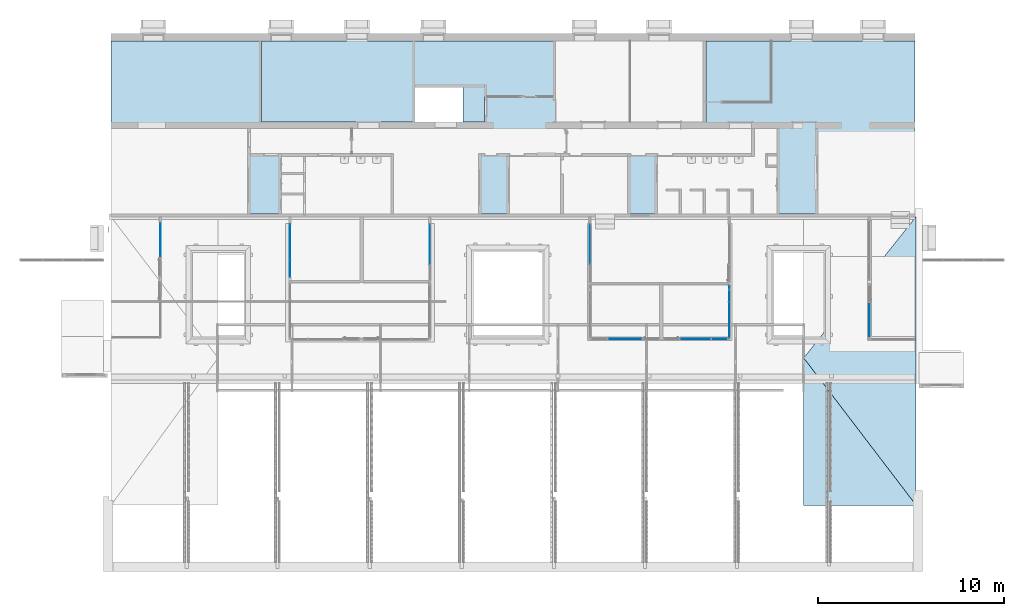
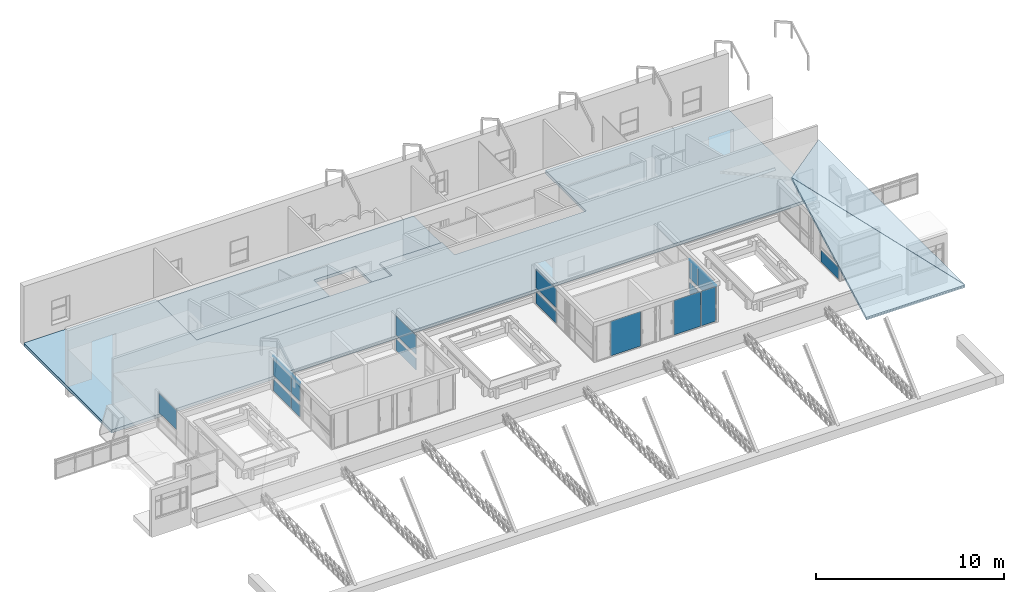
# One storey, part 104 of 153: 19 plates, 4 slabs, 9 elements without a shape of their own.
"""IFC4 building model written with IfcOpenShell, lengths in metres."""

from ifc_helpers import new_model, entity, si_unit, converted_unit, derived_unit, direction, frame, origin, place, context, subcontext, project, spatial, indexed_curve, outline, extrude, source, transform, mapped, material, constituent, constituent_set, type_object, type_shapes, element, aggregate, save


model = new_model("IFC4")

# Units and contexts
model_context = context("Model", 3, precision=1e-05, world=origin(), true_north=direction((6.123031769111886e-17, 1.0)))
body_context = subcontext(model_context, "Body", "Model", "MODEL_VIEW")
ifc_project = project(units=[si_unit("LENGTHUNIT", "METRE"), si_unit("AREAUNIT", "SQUARE_METRE"), si_unit("VOLUMEUNIT", "CUBIC_METRE"), converted_unit("PLANEANGLEUNIT", "DEGREE", entity("IfcRatioMeasure", 0.017453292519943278), si_unit("PLANEANGLEUNIT", "RADIAN"), dimensions=[0, 0, 0, 0, 0, 0, 0]), si_unit("MASSUNIT", "GRAM", prefix="KILO"), derived_unit("MASSDENSITYUNIT", [(si_unit("MASSUNIT", "GRAM", prefix="KILO"), 1), (si_unit("LENGTHUNIT", "METRE"), -3)]), derived_unit("MOMENTOFINERTIAUNIT", [(si_unit("LENGTHUNIT", "METRE"), 4)]), si_unit("TIMEUNIT", "SECOND"), si_unit("FREQUENCYUNIT", "HERTZ"), si_unit("THERMODYNAMICTEMPERATUREUNIT", "DEGREE_CELSIUS"), derived_unit("THERMALTRANSMITTANCEUNIT", [(si_unit("MASSUNIT", "GRAM", prefix="KILO"), 1), (si_unit("THERMODYNAMICTEMPERATUREUNIT", "KELVIN"), -1), (si_unit("TIMEUNIT", "SECOND"), -3)]), derived_unit("VOLUMETRICFLOWRATEUNIT", [(si_unit("LENGTHUNIT", "METRE"), 3), (si_unit("TIMEUNIT", "SECOND"), -1)]), derived_unit("MASSFLOWRATEUNIT", [(si_unit("MASSUNIT", "GRAM", prefix="KILO"), 1), (si_unit("TIMEUNIT", "SECOND"), -1)]), derived_unit("ROTATIONALFREQUENCYUNIT", [(si_unit("TIMEUNIT", "SECOND"), -1)]), si_unit("ELECTRICCURRENTUNIT", "AMPERE"), si_unit("ELECTRICVOLTAGEUNIT", "VOLT"), si_unit("POWERUNIT", "WATT"), si_unit("FORCEUNIT", "NEWTON", prefix="KILO"), si_unit("ILLUMINANCEUNIT", "LUX"), si_unit("LUMINOUSFLUXUNIT", "LUMEN"), si_unit("LUMINOUSINTENSITYUNIT", "CANDELA"), derived_unit("USERDEFINED", [(si_unit("MASSUNIT", "GRAM", prefix="KILO"), -1), (si_unit("LENGTHUNIT", "METRE"), -2), (si_unit("TIMEUNIT", "SECOND"), 3), (si_unit("LUMINOUSFLUXUNIT", "LUMEN"), 1)]), derived_unit("SOUNDPOWERUNIT", [(si_unit("MASSUNIT", "GRAM", prefix="KILO"), 1), (si_unit("LENGTHUNIT", "METRE"), 2), (si_unit("TIMEUNIT", "SECOND"), -3)]), derived_unit("SOUNDPRESSUREUNIT", [(si_unit("MASSUNIT", "GRAM", prefix="KILO"), 1), (si_unit("LENGTHUNIT", "METRE"), -1), (si_unit("TIMEUNIT", "SECOND"), -2)]), derived_unit("LINEARVELOCITYUNIT", [(si_unit("LENGTHUNIT", "METRE"), 1), (si_unit("TIMEUNIT", "SECOND"), -1)]), si_unit("PRESSUREUNIT", "PASCAL"), derived_unit("USERDEFINED", [(si_unit("LENGTHUNIT", "METRE"), -2), (si_unit("MASSUNIT", "GRAM", prefix="KILO"), 1), (si_unit("TIMEUNIT", "SECOND"), -2)]), derived_unit("LINEARFORCEUNIT", [(si_unit("MASSUNIT", "GRAM", prefix="KILO"), 1), (si_unit("LENGTHUNIT", "METRE"), 1), (si_unit("TIMEUNIT", "SECOND"), -2), (si_unit("LENGTHUNIT", "METRE"), -1)]), derived_unit("PLANARFORCEUNIT", [(si_unit("MASSUNIT", "GRAM", prefix="KILO"), 1), (si_unit("LENGTHUNIT", "METRE"), 1), (si_unit("TIMEUNIT", "SECOND"), -2), (si_unit("LENGTHUNIT", "METRE"), -2)])], contexts=[model_context])

# Site, building, storey
site_placement = place(None, origin())
site = spatial("IfcSite", under=ifc_project, at=site_placement, Name="Superficie", CompositionType="ELEMENT")
building_placement = place(site_placement, origin())
building = spatial("IfcBuilding", under=site, at=building_placement, CompositionType="ELEMENT")
storey_placement = place(building_placement, frame((0.0, 0.0, 3.5999999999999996)))
storey = spatial("IfcBuildingStorey", under=building, at=storey_placement, Name="Nivel 1", CompositionType="ELEMENT", Elevation=3.5999999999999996)

# Curtain wall, plate
curtain_wall_type = type_object("IfcCurtainWallType", Name="Muro cortina:Muro cortina - simple", PredefinedType="NOTDEFINED")
curtain_wall_1_placement = place(storey_placement, frame((0.0, 0.0, -3.5999999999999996)))
curtain_wall_1 = element("IfcCurtainWall", 1, at=curtain_wall_1_placement, inside=storey, type_object=curtain_wall_type, Name="Muro cortina:Muro cortina - simple", ObjectType="Muro cortina:Muro cortina - simple", PredefinedType="NOTDEFINED")
ifc_material_1 = material(Name="Cristal", Category="Vidrio")
plate_type_1 = type_object("IfcPlateType", Name="Panel de sistema:Acristalado", PredefinedType="CURTAIN_PANEL", material=ifc_material_1)
shared_shape_1 = source(origin(), body_context, "Body", "SweptSolid", [
    extrude(outline(indexed_curve([(-0.01, -0.9474999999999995), (0.01, -0.9474999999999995), (0.01, 0.9474999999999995), (-0.01, 0.9474999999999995), (-0.01, -0.9474999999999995)], self_intersect=False)), frame((0.0, 0.0, 0.0), z_axis=(0.0, 0.0, 1.0), x_axis=(0.0, 1.0, 0.0)), (0.0, 0.0, 1.0), 0.7600000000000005),
])
type_shapes(plate_type_1, [shared_shape_1])
plate_1_placement = place(curtain_wall_1_placement, frame((18.12679901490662, 0.06273284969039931, 3.6449999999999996), z_axis=(0.0, 0.0, 1.0), x_axis=(0.0, 1.0, 0.0)))
plate_1 = element("IfcPlate", 2, at=plate_1_placement, type_object=plate_type_1, material=ifc_material_1, Name="Panel de sistema:Acristalado", ObjectType="Panel de sistema:Acristalado", PredefinedType="CURTAIN_PANEL", context=body_context, shape_type="MappedRepresentation", body=[
    mapped(shared_shape_1, transform((0.0, 0.0, 0.0), scale=1.0)),
])
aggregate(curtain_wall_1, [plate_1])

# Curtain wall, plates
curtain_wall_2_placement = place(storey_placement, frame((0.0, 0.0, -3.5999999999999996)))
curtain_wall_2 = element("IfcCurtainWall", 3, at=curtain_wall_2_placement, inside=storey, type_object=curtain_wall_type, Name="Muro cortina:Muro cortina - simple", ObjectType="Muro cortina:Muro cortina - simple", PredefinedType="NOTDEFINED")
plate_2_placement = place(curtain_wall_2_placement, frame((10.596799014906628, 0.07458312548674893, 3.6449999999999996), z_axis=(0.0, 0.0, 1.0), x_axis=(0.0, 1.0, 0.0)))
plate_2 = element("IfcPlate", 4, at=plate_2_placement, type_object=plate_type_1, material=ifc_material_1, Name="Panel de sistema:Acristalado", ObjectType="Panel de sistema:Acristalado", PredefinedType="CURTAIN_PANEL", context=body_context, shape_type="MappedRepresentation", body=[
    mapped(shared_shape_1, transform((0.0, 0.0, 0.0), scale=1.0)),
])
plate_type_2 = type_object("IfcPlateType", Name="Panel de sistema:Acristalado", PredefinedType="CURTAIN_PANEL", material=ifc_material_1)
shared_shape_2 = source(origin(), body_context, "Body", "SweptSolid", [
    extrude(outline(indexed_curve([(-0.01, -0.9475000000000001), (0.01, -0.9475000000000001), (0.01, 0.9475000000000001), (-0.01, 0.9475000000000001), (-0.01, -0.9475000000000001)], self_intersect=False)), frame((0.0, 0.0, 0.0), z_axis=(0.0, 0.0, 1.0), x_axis=(0.0, 1.0, 0.0)), (0.0, 0.0, 1.0), 1.2249999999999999),
])
type_shapes(plate_type_2, [shared_shape_2])
plate_3_placement = place(curtain_wall_2_placement, frame((10.596799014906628, 0.07458312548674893, 4.654999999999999), z_axis=(0.0, 0.0, 1.0), x_axis=(0.0, 1.0, 0.0)))
plate_3 = element("IfcPlate", 5, at=plate_3_placement, type_object=plate_type_2, material=ifc_material_1, Name="Panel de sistema:Acristalado", ObjectType="Panel de sistema:Acristalado", PredefinedType="CURTAIN_PANEL", context=body_context, shape_type="MappedRepresentation", body=[
    mapped(shared_shape_2, transform((0.0, 0.0, 0.0), scale=1.0)),
])
plate_type_3 = type_object("IfcPlateType", Name="Panel de sistema:Acristalado", PredefinedType="CURTAIN_PANEL", material=ifc_material_1)
shared_shape_3 = source(origin(), body_context, "Body", "SweptSolid", [
    extrude(outline(indexed_curve([(-0.009999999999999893, -1.5716666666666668), (0.009999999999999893, -1.5716666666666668), (0.009999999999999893, 0.3483333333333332), (0.009999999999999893, 1.2233333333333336), (-0.009999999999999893, 1.2233333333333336), (-0.009999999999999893, 0.3483333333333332), (-0.009999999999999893, -1.5716666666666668)], self_intersect=False)), frame((0.1741666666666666, -0.01, 0.009999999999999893), z_axis=(0.0, 1.0, 0.0), x_axis=(0.0, 0.0, 1.0)), (0.0, 0.0, 1.0), 0.02),
])
type_shapes(plate_type_3, [shared_shape_3])
plate_4_placement = place(curtain_wall_2_placement, frame((10.596799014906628, 0.524583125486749, 5.879999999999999), z_axis=(0.0, 0.0, 1.0), x_axis=(0.0, 1.0, 0.0)))
plate_4 = element("IfcPlate", 6, at=plate_4_placement, type_object=plate_type_3, material=ifc_material_1, Name="Panel de sistema:Acristalado", ObjectType="Panel de sistema:Acristalado", PredefinedType="CURTAIN_PANEL", context=body_context, shape_type="MappedRepresentation", body=[
    mapped(shared_shape_3, transform((0.0, 0.0, 0.0), scale=1.0)),
])

# Curtain wall, plate
curtain_wall_3_placement = place(storey_placement, frame((0.0, 0.0, -3.5999999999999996)))
curtain_wall_3 = element("IfcCurtainWall", 7, at=curtain_wall_3_placement, inside=storey, type_object=curtain_wall_type, Name="Muro cortina:Muro cortina - simple", ObjectType="Muro cortina:Muro cortina - simple", PredefinedType="NOTDEFINED")
plate_type_4 = type_object("IfcPlateType", Name="Panel de sistema:Acristalado", PredefinedType="CURTAIN_PANEL", material=ifc_material_1)
shared_shape_4 = source(origin(), body_context, "Body", "SweptSolid", [
    extrude(outline(indexed_curve([(-0.01, -0.45499999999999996), (0.01, -0.45499999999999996), (0.01, 0.45499999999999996), (-0.01, 0.45499999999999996), (-0.01, -0.45499999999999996)], self_intersect=False)), frame((0.0, 0.0, 0.0), z_axis=(0.0, 0.0, 1.0), x_axis=(0.0, 1.0, 0.0)), (0.0, 0.0, 1.0), 0.7600000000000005),
])
type_shapes(plate_type_4, [shared_shape_4])
plate_5_placement = place(curtain_wall_3_placement, frame((-13.023200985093, 2.846393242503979, 3.6449999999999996), z_axis=(0.0, 0.0, 1.0), x_axis=(0.0, 1.0, 0.0)))
plate_5 = element("IfcPlate", 8, at=plate_5_placement, type_object=plate_type_4, material=ifc_material_1, Name="Panel de sistema:Acristalado", ObjectType="Panel de sistema:Acristalado", PredefinedType="CURTAIN_PANEL", context=body_context, shape_type="MappedRepresentation", body=[
    mapped(shared_shape_4, transform((0.0, 0.0, 0.0), scale=1.0)),
])

# Curtain wall, plates
curtain_wall_4_placement = place(storey_placement, frame((0.0, 0.0, -3.5999999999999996)))
curtain_wall_4 = element("IfcCurtainWall", 9, at=curtain_wall_4_placement, inside=storey, type_object=curtain_wall_type, Name="Muro cortina:Muro cortina - simple", ObjectType="Muro cortina:Muro cortina - simple", PredefinedType="NOTDEFINED")
plate_type_5 = type_object("IfcPlateType", Name="Panel de sistema:Acristalado", PredefinedType="CURTAIN_PANEL", material=ifc_material_1)
shared_shape_5 = source(origin(), body_context, "Body", "SweptSolid", [
    extrude(outline(indexed_curve([(-0.01, -1.0780801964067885), (0.01, -1.0780801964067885), (0.01, 1.0780801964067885), (-0.01, 1.0780801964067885), (-0.01, -1.0780801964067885)], self_intersect=False)), frame((0.0, 0.0, 0.0), z_axis=(0.0, 0.0, 1.0), x_axis=(0.0, 1.0, 0.0)), (0.0, 0.0, 1.0), 0.7600000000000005),
])
type_shapes(plate_type_5, [shared_shape_5])
plate_6_placement = place(curtain_wall_4_placement, frame((-5.5132009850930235, 4.1483130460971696, 3.6449999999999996), z_axis=(0.0, 0.0, 1.0), x_axis=(0.0, 1.0, 0.0)))
plate_6 = element("IfcPlate", 10, at=plate_6_placement, type_object=plate_type_5, material=ifc_material_1, Name="Panel de sistema:Acristalado", ObjectType="Panel de sistema:Acristalado", PredefinedType="CURTAIN_PANEL", context=body_context, shape_type="MappedRepresentation", body=[
    mapped(shared_shape_5, transform((0.0, 0.0, 0.0), scale=1.0)),
])
plate_type_6 = type_object("IfcPlateType", Name="Panel de sistema:Acristalado", PredefinedType="CURTAIN_PANEL", material=ifc_material_1)
shared_shape_6 = source(origin(), body_context, "Body", "SweptSolid", [
    extrude(outline(indexed_curve([(-0.01, -1.078080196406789), (0.01, -1.078080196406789), (0.01, 1.078080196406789), (-0.01, 1.078080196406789), (-0.01, -1.078080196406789)], self_intersect=False)), frame((0.0, 0.0, 0.0), z_axis=(0.0, 0.0, 1.0), x_axis=(0.0, 1.0, 0.0)), (0.0, 0.0, 1.0), 1.2449999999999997),
])
type_shapes(plate_type_6, [shared_shape_6])
plate_7_placement = place(curtain_wall_4_placement, frame((-5.5132009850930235, 4.14831304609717, 4.654999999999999), z_axis=(0.0, 0.0, 1.0), x_axis=(0.0, 1.0, 0.0)))
plate_7 = element("IfcPlate", 11, at=plate_7_placement, type_object=plate_type_6, material=ifc_material_1, Name="Panel de sistema:Acristalado", ObjectType="Panel de sistema:Acristalado", PredefinedType="CURTAIN_PANEL", context=body_context, shape_type="MappedRepresentation", body=[
    mapped(shared_shape_6, transform((0.0, 0.0, 0.0), scale=1.0)),
])
aggregate(curtain_wall_4, [plate_6, plate_7])

# Plate
plate_type_7 = type_object("IfcPlateType", Name="Panel de sistema:Acristalado", PredefinedType="CURTAIN_PANEL", material=ifc_material_1)
shared_shape_7 = source(origin(), body_context, "Body", "SweptSolid", [
    extrude(outline(indexed_curve([(-0.01, -0.42500000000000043), (0.01, -0.42500000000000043), (0.01, 0.42500000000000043), (-0.01, 0.42500000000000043), (-0.01, -0.42500000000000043)], self_intersect=False)), frame((0.0, 0.0, 0.0), z_axis=(0.0, 0.0, 1.0), x_axis=(0.0, 1.0, 0.0)), (0.0, 0.0, 1.0), 0.7600000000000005),
])
type_shapes(plate_type_7, [shared_shape_7])
plate_8_placement = place(curtain_wall_2_placement, frame((10.596799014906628, 1.4970831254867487, 3.6449999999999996), z_axis=(0.0, 0.0, 1.0), x_axis=(0.0, 1.0, 0.0)))
plate_8 = element("IfcPlate", 12, at=plate_8_placement, type_object=plate_type_7, material=ifc_material_1, Name="Panel de sistema:Acristalado", ObjectType="Panel de sistema:Acristalado", PredefinedType="CURTAIN_PANEL", context=body_context, shape_type="MappedRepresentation", body=[
    mapped(shared_shape_7, transform((0.0, 0.0, 0.0), scale=1.0)),
])

plate_type_8 = type_object("IfcPlateType", Name="Panel de sistema:Acristalado", PredefinedType="CURTAIN_PANEL", material=ifc_material_1)
shared_shape_8 = source(origin(), body_context, "Body", "SweptSolid", [
    extrude(outline(indexed_curve([(-0.01, -0.4249999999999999), (0.01, -0.4249999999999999), (0.01, 0.4249999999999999), (-0.01, 0.4249999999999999), (-0.01, -0.4249999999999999)], self_intersect=False)), frame((0.0, 0.0, 0.0), z_axis=(0.0, 0.0, 1.0), x_axis=(0.0, 1.0, 0.0)), (0.0, 0.0, 1.0), 1.2249999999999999),
])
type_shapes(plate_type_8, [shared_shape_8])
plate_9_placement = place(curtain_wall_2_placement, frame((10.596799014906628, 1.4970831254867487, 4.654999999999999), z_axis=(0.0, 0.0, 1.0), x_axis=(0.0, 1.0, 0.0)))
plate_9 = element("IfcPlate", 13, at=plate_9_placement, type_object=plate_type_8, material=ifc_material_1, Name="Panel de sistema:Acristalado", ObjectType="Panel de sistema:Acristalado", PredefinedType="CURTAIN_PANEL", context=body_context, shape_type="MappedRepresentation", body=[
    mapped(shared_shape_8, transform((0.0, 0.0, 0.0), scale=1.0)),
])

aggregate(curtain_wall_2, [plate_2, plate_8, plate_3, plate_9, plate_4])

# Curtain wall, plates
curtain_wall_5_placement = place(storey_placement, frame((0.0, 0.0, -3.5999999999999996)))
curtain_wall_5 = element("IfcCurtainWall", 14, at=curtain_wall_5_placement, inside=storey, type_object=curtain_wall_type, Name="Muro cortina:Muro cortina - simple", ObjectType="Muro cortina:Muro cortina - simple", PredefinedType="NOTDEFINED")
plate_type_9 = type_object("IfcPlateType", Name="Panel de sistema:Acristalado", PredefinedType="CURTAIN_PANEL", material=ifc_material_1)
shared_shape_9 = source(origin(), body_context, "Body", "SweptSolid", [
    extrude(outline(indexed_curve([(-0.01, -1.0721550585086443), (0.01, -1.0721550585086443), (0.01, 1.0721550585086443), (-0.01, 1.0721550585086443), (-0.01, -1.0721550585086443)], self_intersect=False)), frame((0.0, 0.0, 0.0), z_axis=(0.0, 0.0, 1.0), x_axis=(0.0, 1.0, 0.0)), (0.0, 0.0, 1.0), 0.7600000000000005),
])
type_shapes(plate_type_9, [shared_shape_9])
plate_10_placement = place(curtain_wall_5_placement, frame((3.09179901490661, 4.154238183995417, 3.6449999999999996), z_axis=(0.0, 0.0, 1.0), x_axis=(0.0, 1.0, 0.0)))
plate_10 = element("IfcPlate", 15, at=plate_10_placement, type_object=plate_type_9, material=ifc_material_1, Name="Panel de sistema:Acristalado", ObjectType="Panel de sistema:Acristalado", PredefinedType="CURTAIN_PANEL", context=body_context, shape_type="MappedRepresentation", body=[
    mapped(shared_shape_9, transform((0.0, 0.0, 0.0), scale=1.0)),
])
plate_type_10 = type_object("IfcPlateType", Name="Panel de sistema:Acristalado", PredefinedType="CURTAIN_PANEL", material=ifc_material_1)
shared_shape_10 = source(origin(), body_context, "Body", "SweptSolid", [
    extrude(outline(indexed_curve([(-0.01, -1.0721550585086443), (0.01, -1.0721550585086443), (0.01, 1.0721550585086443), (-0.01, 1.0721550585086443), (-0.01, -1.0721550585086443)], self_intersect=False)), frame((0.0, 0.0, 0.0), z_axis=(0.0, 0.0, 1.0), x_axis=(0.0, 1.0, 0.0)), (0.0, 0.0, 1.0), 1.2449999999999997),
])
type_shapes(plate_type_10, [shared_shape_10])
plate_11_placement = place(curtain_wall_5_placement, frame((3.09179901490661, 4.154238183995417, 4.654999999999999), z_axis=(0.0, 0.0, 1.0), x_axis=(0.0, 1.0, 0.0)))
plate_11 = element("IfcPlate", 16, at=plate_11_placement, type_object=plate_type_10, material=ifc_material_1, Name="Panel de sistema:Acristalado", ObjectType="Panel de sistema:Acristalado", PredefinedType="CURTAIN_PANEL", context=body_context, shape_type="MappedRepresentation", body=[
    mapped(shared_shape_10, transform((0.0, 0.0, 0.0), scale=1.0)),
])
aggregate(curtain_wall_5, [plate_10, plate_11])

curtain_wall_6_placement = place(storey_placement, frame((0.0, 0.0, -3.5999999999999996)))
curtain_wall_6 = element("IfcCurtainWall", 17, at=curtain_wall_6_placement, inside=storey, type_object=curtain_wall_type, Name="Muro cortina:Muro cortina - simple", ObjectType="Muro cortina:Muro cortina - simple", PredefinedType="NOTDEFINED")
plate_type_11 = type_object("IfcPlateType", Name="Panel de sistema:Acristalado", PredefinedType="CURTAIN_PANEL", material=ifc_material_1)
shared_shape_11 = source(origin(), body_context, "Body", "SweptSolid", [
    extrude(outline(indexed_curve([(-0.01, -0.4374999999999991), (0.01, -0.4374999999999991), (0.01, 0.4374999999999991), (-0.01, 0.4374999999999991), (-0.01, -0.4374999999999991)], self_intersect=False)), frame((0.0, 0.0, 0.0), z_axis=(0.0, 0.0, 1.0), x_axis=(0.0, 1.0, 0.0)), (0.0, 0.0, 1.0), 2.250000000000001),
])
type_shapes(plate_type_11, [shared_shape_11])
plate_12_placement = place(curtain_wall_6_placement, frame((10.07929901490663, -0.9517564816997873, 3.6499999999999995), z_axis=(0.0, 0.0, 1.0), x_axis=(-1.0, 0.0, 0.0)))
plate_12 = element("IfcPlate", 18, at=plate_12_placement, type_object=plate_type_11, material=ifc_material_1, Name="Panel de sistema:Acristalado", ObjectType="Panel de sistema:Acristalado", PredefinedType="CURTAIN_PANEL", context=body_context, shape_type="MappedRepresentation", body=[
    mapped(shared_shape_11, transform((0.0, 0.0, 0.0), scale=1.0)),
])
plate_type_12 = type_object("IfcPlateType", Name="Panel de sistema:Acristalado", PredefinedType="CURTAIN_PANEL", material=ifc_material_1)
shared_shape_12 = source(origin(), body_context, "Body", "SweptSolid", [
    extrude(outline(indexed_curve([(-0.01, -0.8124999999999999), (0.01, -0.8124999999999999), (0.01, 0.8124999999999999), (-0.01, 0.8124999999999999), (-0.01, -0.8124999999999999)], self_intersect=False)), frame((0.0, 0.0, 0.0), z_axis=(0.0, 0.0, 1.0), x_axis=(0.0, 1.0, 0.0)), (0.0, 0.0, 1.0), 2.250000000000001),
])
type_shapes(plate_type_12, [shared_shape_12])
plate_13_placement = place(curtain_wall_6_placement, frame((8.77929901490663, -0.9517564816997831, 3.6499999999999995), z_axis=(0.0, 0.0, 1.0), x_axis=(-1.0, 0.0, 0.0)))
plate_13 = element("IfcPlate", 19, at=plate_13_placement, type_object=plate_type_12, material=ifc_material_1, Name="Panel de sistema:Acristalado", ObjectType="Panel de sistema:Acristalado", PredefinedType="CURTAIN_PANEL", context=body_context, shape_type="MappedRepresentation", body=[
    mapped(shared_shape_12, transform((0.0, 0.0, 0.0), scale=1.0)),
])
aggregate(curtain_wall_6, [plate_12, plate_13])

# Curtain wall, plate
curtain_wall_7_placement = place(storey_placement, frame((0.0, 0.0, -3.5999999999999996)))
curtain_wall_7 = element("IfcCurtainWall", 20, at=curtain_wall_7_placement, inside=storey, type_object=curtain_wall_type, Name="Muro cortina:Muro cortina - simple", ObjectType="Muro cortina:Muro cortina - simple", PredefinedType="NOTDEFINED")
plate_type_13 = type_object("IfcPlateType", Name="Panel de sistema:Acristalado", PredefinedType="CURTAIN_PANEL", material=ifc_material_1)
shared_shape_13 = source(origin(), body_context, "Body", "SweptSolid", [
    extrude(outline(indexed_curve([(-0.01, -0.9199999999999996), (0.01, -0.9199999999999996), (0.01, 0.9199999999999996), (-0.01, 0.9199999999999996), (-0.01, -0.9199999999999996)], self_intersect=False)), frame((0.0, 0.0, 0.0), z_axis=(0.0, 0.0, 1.0), x_axis=(0.0, 1.0, 0.0)), (0.0, 0.0, 1.0), 2.250000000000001),
])
type_shapes(plate_type_13, [shared_shape_13])
plate_14_placement = place(curtain_wall_7_placement, frame((4.996799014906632, -0.9517564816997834, 3.6499999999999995)))
plate_14 = element("IfcPlate", 21, at=plate_14_placement, type_object=plate_type_13, material=ifc_material_1, Name="Panel de sistema:Acristalado", ObjectType="Panel de sistema:Acristalado", PredefinedType="CURTAIN_PANEL", context=body_context, shape_type="MappedRepresentation", body=[
    mapped(shared_shape_13, transform((0.0, 0.0, 0.0), scale=1.0)),
])
aggregate(curtain_wall_7, [plate_14])

# Plate
plate_type_14 = type_object("IfcPlateType", Name="Panel de sistema:Acristalado", PredefinedType="CURTAIN_PANEL", material=ifc_material_1)
shared_shape_14 = source(origin(), body_context, "Body", "SweptSolid", [
    extrude(outline(indexed_curve([(-0.01, -0.9400000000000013), (0.01, -0.9400000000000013), (0.01, 0.9400000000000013), (-0.01, 0.9400000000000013), (-0.01, -0.9400000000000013)], self_intersect=False)), frame((0.0, 0.0, 0.0), z_axis=(0.0, 0.0, 1.0), x_axis=(0.0, 1.0, 0.0)), (0.0, 0.0, 1.0), 0.7600000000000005),
])
type_shapes(plate_type_14, [shared_shape_14])
plate_15_placement = place(curtain_wall_3_placement, frame((-13.023200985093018, 4.29139324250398, 3.6449999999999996), z_axis=(0.0, 0.0, 1.0), x_axis=(0.0, 1.0, 0.0)))
plate_15 = element("IfcPlate", 22, at=plate_15_placement, type_object=plate_type_14, material=ifc_material_1, Name="Panel de sistema:Acristalado", ObjectType="Panel de sistema:Acristalado", PredefinedType="CURTAIN_PANEL", context=body_context, shape_type="MappedRepresentation", body=[
    mapped(shared_shape_14, transform((0.0, 0.0, 0.0), scale=1.0)),
])

plate_type_15 = type_object("IfcPlateType", Name="Panel de sistema:Acristalado", PredefinedType="CURTAIN_PANEL", material=ifc_material_1)
shared_shape_15 = source(origin(), body_context, "Body", "SweptSolid", [
    extrude(outline(indexed_curve([(-0.01, -0.4550000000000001), (0.01, -0.4550000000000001), (0.01, 0.4550000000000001), (-0.01, 0.4550000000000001), (-0.01, -0.4550000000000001)], self_intersect=False)), frame((0.0, 0.0, 0.0), z_axis=(0.0, 0.0, 1.0), x_axis=(0.0, 1.0, 0.0)), (0.0, 0.0, 1.0), 1.2249999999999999),
])
type_shapes(plate_type_15, [shared_shape_15])
plate_16_placement = place(curtain_wall_3_placement, frame((-13.023200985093, 2.846393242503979, 4.654999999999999), z_axis=(0.0, 0.0, 1.0), x_axis=(0.0, 1.0, 0.0)))
plate_16 = element("IfcPlate", 23, at=plate_16_placement, type_object=plate_type_15, material=ifc_material_1, Name="Panel de sistema:Acristalado", ObjectType="Panel de sistema:Acristalado", PredefinedType="CURTAIN_PANEL", context=body_context, shape_type="MappedRepresentation", body=[
    mapped(shared_shape_15, transform((0.0, 0.0, 0.0), scale=1.0)),
])

plate_type_16 = type_object("IfcPlateType", Name="Panel de sistema:Acristalado", PredefinedType="CURTAIN_PANEL", material=ifc_material_1)
shared_shape_16 = source(origin(), body_context, "Body", "SweptSolid", [
    extrude(outline(indexed_curve([(-0.01, -0.9400000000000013), (0.01, -0.9400000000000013), (0.01, 0.9400000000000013), (-0.01, 0.9400000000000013), (-0.01, -0.9400000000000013)], self_intersect=False)), frame((0.0, 0.0, 0.0), z_axis=(0.0, 0.0, 1.0), x_axis=(0.0, 1.0, 0.0)), (0.0, 0.0, 1.0), 1.2249999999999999),
])
type_shapes(plate_type_16, [shared_shape_16])
plate_17_placement = place(curtain_wall_3_placement, frame((-13.023200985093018, 4.29139324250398, 4.654999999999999), z_axis=(0.0, 0.0, 1.0), x_axis=(0.0, 1.0, 0.0)))
plate_17 = element("IfcPlate", 24, at=plate_17_placement, type_object=plate_type_16, material=ifc_material_1, Name="Panel de sistema:Acristalado", ObjectType="Panel de sistema:Acristalado", PredefinedType="CURTAIN_PANEL", context=body_context, shape_type="MappedRepresentation", body=[
    mapped(shared_shape_16, transform((0.0, 0.0, 0.0), scale=1.0)),
])

plate_type_17 = type_object("IfcPlateType", Name="Panel de sistema:Acristalado", PredefinedType="CURTAIN_PANEL", material=ifc_material_1)
shared_shape_17 = source(origin(), body_context, "Body", "SweptSolid", [
    extrude(outline(indexed_curve([(-0.009999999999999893, -1.258333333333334), (0.009999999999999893, -1.258333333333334), (0.009999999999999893, -0.32333333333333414), (0.009999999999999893, 1.5816666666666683), (-0.009999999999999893, 1.5816666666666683), (-0.009999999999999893, -0.32333333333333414), (-0.009999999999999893, -1.258333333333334)], self_intersect=False)), frame((-0.16166666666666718, -0.009999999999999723, 0.009999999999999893), z_axis=(0.0, 1.0, 0.0), x_axis=(0.0, 0.0, 1.0)), (0.0, 0.0, 1.0), 0.02),
])
type_shapes(plate_type_17, [shared_shape_17])
plate_18_placement = place(curtain_wall_3_placement, frame((-13.023200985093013, 3.81139324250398, 5.879999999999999), z_axis=(0.0, 0.0, 1.0), x_axis=(0.0, 1.0, 0.0)))
plate_18 = element("IfcPlate", 25, at=plate_18_placement, type_object=plate_type_17, material=ifc_material_1, Name="Panel de sistema:Acristalado", ObjectType="Panel de sistema:Acristalado", PredefinedType="CURTAIN_PANEL", context=body_context, shape_type="MappedRepresentation", body=[
    mapped(shared_shape_17, transform((0.0, 0.0, 0.0), scale=1.0)),
])

aggregate(curtain_wall_3, [plate_5, plate_15, plate_16, plate_17, plate_18])

# Curtain wall, plate
curtain_wall_8_placement = place(storey_placement, frame((0.0, 0.0, -3.5999999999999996)))
curtain_wall_8 = element("IfcCurtainWall", 26, at=curtain_wall_8_placement, inside=storey, type_object=curtain_wall_type, Name="Muro cortina:Muro cortina - simple", ObjectType="Muro cortina:Muro cortina - simple", PredefinedType="NOTDEFINED")
plate_type_18 = type_object("IfcPlateType", Name="Panel de sistema:Acristalado", PredefinedType="CURTAIN_PANEL", material=ifc_material_1)
shared_shape_18 = source(origin(), body_context, "Body", "SweptSolid", [
    extrude(outline(indexed_curve([(-0.01, -0.9375000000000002), (0.01, -0.9375000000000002), (0.01, 0.9375000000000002), (-0.01, 0.9375000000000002), (-0.01, -0.9375000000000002)], self_intersect=False)), frame((0.0, 0.0, 0.0), z_axis=(0.0, 0.0, 1.0), x_axis=(0.0, 1.0, 0.0)), (0.0, 0.0, 1.0), 1.2749999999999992),
])
type_shapes(plate_type_18, [shared_shape_18])
plate_19_placement = place(curtain_wall_8_placement, frame((-19.99320098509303, 4.379583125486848, 4.625), z_axis=(0.0, 0.0, 1.0), x_axis=(0.0, -1.0, 0.0)))
plate_19 = element("IfcPlate", 27, at=plate_19_placement, type_object=plate_type_18, material=ifc_material_1, Name="Panel de sistema:Acristalado", ObjectType="Panel de sistema:Acristalado", PredefinedType="CURTAIN_PANEL", context=body_context, shape_type="MappedRepresentation", body=[
    mapped(shared_shape_18, transform((0.0, 0.0, 0.0), scale=1.0)),
])
aggregate(curtain_wall_8, [plate_19])

# Slabs
ifc_material_2 = material(Name="Suelos por defecto", Category="Genérico")
slab_type_1 = type_object("IfcSlabType", Name="Suelo:Por defecto - 20 cm 2", PredefinedType="FLOOR", material=ifc_material_2)
slab_1_placement = place(storey_placement, origin())
element("IfcSlab", 28, at=slab_1_placement, inside=storey, type_object=slab_type_1, material=ifc_material_2, Name="Suelo:Por defecto - 20 cm 2", ObjectType="Suelo:Por defecto - 20 cm 2", PredefinedType="FLOOR", context=body_context, shape_type="SweptSolid", body=[
    extrude(outline(indexed_curve([(-5.799999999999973, -21.213768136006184), (3.509999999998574, -21.213768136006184), (3.509999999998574, -13.11956519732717), (-0.8449999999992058, -13.119565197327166), (-0.8449999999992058, -1.1395651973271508), (0.4700000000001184, -1.1395651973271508), (0.4700000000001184, 2.6904348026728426), (-0.8449999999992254, 2.6904348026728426), (-0.8449999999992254, 10.766231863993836), (3.5099999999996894, 10.766231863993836), (3.5099999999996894, 22.01623186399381), (-5.799999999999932, 22.01623186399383), (-5.799999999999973, -21.213768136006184)], self_intersect=False)), frame((-1.4294328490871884, 11.57582928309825, 0.5199999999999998), z_axis=(0.0, 0.0, -1.0), x_axis=(0.0, 1.0, 0.0)), (0.0, 0.0, 1.0), 0.2),
])
slab_type_2 = type_object("IfcSlabType", Name="Suelo:Por defecto - 20 cm 2", PredefinedType="FLOOR", material=ifc_material_2)
slab_2_placement = place(storey_placement, origin())
element("IfcSlab", 29, at=slab_2_placement, inside=storey, type_object=slab_type_2, material=ifc_material_2, Name="Suelo:Por defecto - 20 cm 2", ObjectType="Suelo:Por defecto - 20 cm 2", PredefinedType="FLOOR", context=body_context, shape_type="SweptSolid", body=[
    extrude(outline(indexed_curve([(-1.513919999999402, -9.374000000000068), (2.841079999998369, -9.374000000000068), (2.841079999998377, 6.436000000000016), (-0.1489200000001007, 6.436000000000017), (-0.14892000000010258, 2.6060000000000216), (-1.5139199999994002, 2.606000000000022), (-1.5139199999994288, 1.4560000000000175), (0.3356800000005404, 1.4560000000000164), (0.3356800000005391, -1.1239999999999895), (-1.5139199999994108, -1.1239999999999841), (-1.513919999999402, -9.374000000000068)], self_intersect=False)), frame((-5.174998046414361, 12.244749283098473, 0.4), z_axis=(0.0, 0.0, -1.0), x_axis=(0.0, 1.0, 0.0)), (0.0, 0.0, 1.0), 0.2),
])

# Roof, slabs
roof_placement = place(storey_placement, frame((14.597348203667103, -9.894451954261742, 4.107718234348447)))
roof = element("IfcRoof", 30, at=roof_placement, inside=storey, Name="Cubierta básica:Plana tipo deck - 16 cm", ObjectType="Cubierta básica:Plana tipo deck - 16 cm", PredefinedType="NOTDEFINED")
ifc_material_3 = material(Name="Aislamiento térmico", Category="Varios")
ifc_constituent_1 = constituent(ifc_material_3, Name="Aislamiento térmico", Category="Varios")
ifc_material_4 = material(Name="Metal - Chapado (1)", Category="Metal")
ifc_constituent_2 = constituent(ifc_material_4, Name="Metal - Chapado (1)", Category="Metal")
ifc_constituent_set = constituent_set(constituents=[ifc_constituent_1, ifc_constituent_2], Name="Cubierta básica:Plana tipo deck - 16 cm")
slab_type_3 = type_object("IfcSlabType", Name="Cubierta básica:Plana tipo deck - 16 cm", PredefinedType="ROOF")
slab_3_placement = place(roof_placement, origin())
slab_3 = element("IfcSlab", 31, at=slab_3_placement, type_object=slab_type_3, material=ifc_constituent_set, Name="Cubierta básica:Plana tipo deck - 16 cm", ObjectType="Cubierta básica:Plana tipo deck - 16 cm", PredefinedType="ROOF", context=body_context, shape_type="SweptSolid", body=[
    extrude(outline(indexed_curve([(-3.0252750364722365, -4.501509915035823), (3.025275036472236, -4.503269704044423), (-3.025275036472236, 4.503269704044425), (-3.0252750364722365, -4.501509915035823)], self_intersect=False)), frame((3.0252745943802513, 3.9649988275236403, 2.1350000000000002), z_axis=(0.0005406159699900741, -0.4737800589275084, 0.8806430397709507), x_axis=(0.9999998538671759, 0.0002561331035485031, -0.00047608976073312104)), (-0.00047608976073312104, 0.4737801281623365, 0.8806430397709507), 0.07999999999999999),
    extrude(outline(indexed_curve([(-3.0252750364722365, -4.501509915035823), (3.025275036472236, -4.503269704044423), (-3.025275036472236, 4.503269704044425), (-3.0252750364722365, -4.501509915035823)], self_intersect=False)), frame((3.0252745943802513, 3.9649988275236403, 2.225842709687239), z_axis=(0.0005406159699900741, -0.4737800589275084, 0.8806430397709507), x_axis=(0.9999998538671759, 0.0002561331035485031, -0.00047608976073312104)), (-0.00047608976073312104, 0.4737801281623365, 0.8806430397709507), 0.07999999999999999),
])
slab_type_4 = type_object("IfcSlabType", Name="Cubierta básica:Plana tipo deck - 16 cm", PredefinedType="ROOF")
slab_4_placement = place(roof_placement, origin())
slab_4 = element("IfcSlab", 32, at=slab_4_placement, type_object=slab_type_4, material=ifc_constituent_set, Name="Cubierta básica:Plana tipo deck - 16 cm", ObjectType="Cubierta básica:Plana tipo deck - 16 cm", PredefinedType="ROOF", context=body_context, shape_type="SweptSolid", body=[
    extrude(outline(indexed_curve([(-7.405541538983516, 0.15985703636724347), (0.0, -7.770140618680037), (0.0, 7.7701406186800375), (-7.405541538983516, 0.15985703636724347)], self_intersect=False)), frame((6.0505491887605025, 7.770140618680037, 0.0), z_axis=(0.5765952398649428, 0.0, 0.8170299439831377), x_axis=(0.8170299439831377, 0.0, -0.5765952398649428)), (-0.5765952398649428, 0.0, 0.8170299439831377), 0.08),
    extrude(outline(indexed_curve([(-7.405541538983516, 0.15985703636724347), (0.0, -7.770140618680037), (0.0, 7.7701406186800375), (-7.405541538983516, 0.15985703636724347)], self_intersect=False)), frame((6.0505491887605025, 7.770140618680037, 0.097915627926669), z_axis=(0.5765952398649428, 0.0, 0.8170299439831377), x_axis=(0.8170299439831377, 0.0, -0.5765952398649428)), (-0.5765952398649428, 0.0, 0.8170299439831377), 0.08),
])
aggregate(roof, [slab_3, slab_4])

save(model, "model.ifc")
